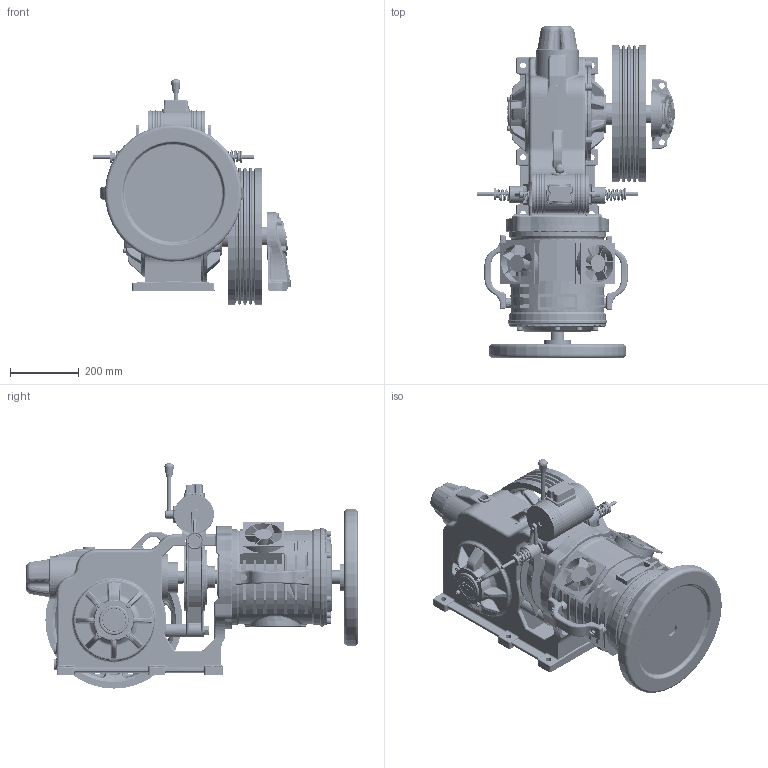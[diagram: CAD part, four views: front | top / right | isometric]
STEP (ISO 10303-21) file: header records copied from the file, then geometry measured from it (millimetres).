
FILE_DESCRIPTION (( 'STEP AP214' ), '1' );
FILE_NAME ('SMC40063.STEP', '2026-02-02T11:52:04', ( '' ), ( '' ), 'SwSTEP 2.0', 'SolidWorks 2025', '' );
FILE_SCHEMA (( 'AUTOMOTIVE_DESIGN' ));
Length unit declared in the file: millimetre
Products named in the file (1): SMC40063
Bounding box: 576.66 x 968.88 x 657.5 mm (x, y, z)
Volume: 57957725.6 mm3; surface area: 3580053.9 mm2
Topology: 34 solids, 71 shells, 5183 faces, 12416 edges, 7450 vertices
Faces by surface type: bspline 1733, cylinder 1428, plane 1336, cone 377, torus 267, sphere 42
Entity records: 218351 total; most frequent: CARTESIAN_POINT 111788, ORIENTED_EDGE 24604, DIRECTION 19074, EDGE_CURVE 12302, AXIS2_PLACEMENT_3D 7620, VERTEX_POINT 7442, EDGE_LOOP 5590, FACE_OUTER_BOUND 5183
